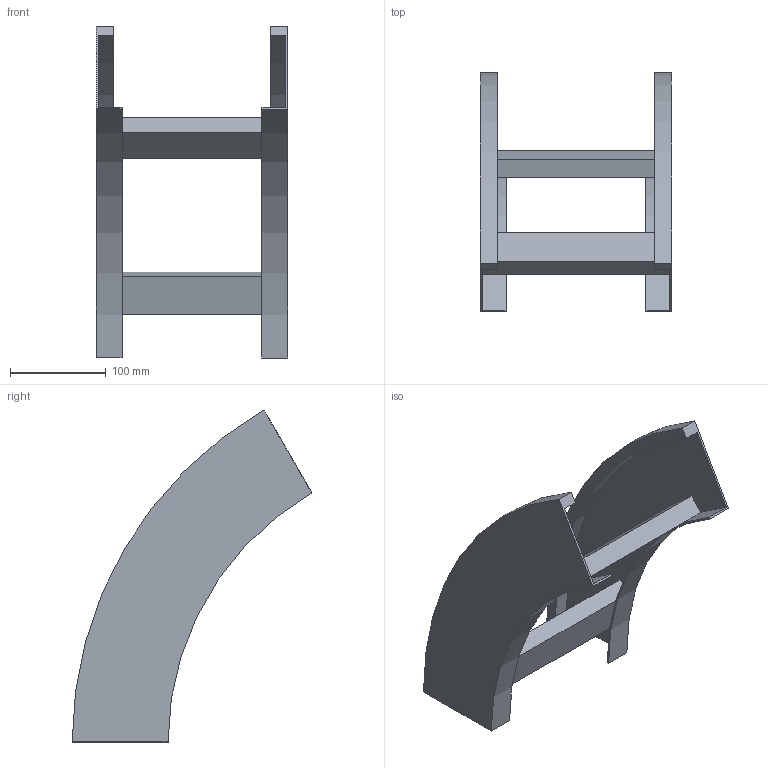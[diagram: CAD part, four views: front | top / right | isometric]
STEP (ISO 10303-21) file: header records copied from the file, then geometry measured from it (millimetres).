
FILE_DESCRIPTION (( 'STEP AP214' ), '1' );
FILE_NAME ('B2_41B3D200.step', '2025-02-21T14:57:04', ( '' ), ( '' ), 'SwSTEP 2.0', 'SolidWorks 2023', '' );
FILE_SCHEMA (( 'AUTOMOTIVE_DESIGN' ));
Length unit declared in the file: millimetre
Products named in the file (3): B2_41B3D200; TRAVERSINO_200; B2_LONGH.DISCESA_60°_H100_R300
Assembly tree (4 placements, depth 2):
  B2_41B3D200
    B2_LONGH.DISCESA_60°_H100_R300  x2
    TRAVERSINO_200  x2
Bounding box: 200 x 250 x 346.41 mm (x, y, z)
Volume: 654085.1 mm3; surface area: 259906.6 mm2
Topology: 4 solids, 4 shells, 32 faces, 72 edges, 48 vertices
Faces by surface type: plane 24, cylinder 8
Entity records: 552 total; most frequent: DIRECTION 90, CARTESIAN_POINT 83, ORIENTED_EDGE 72, EDGE_CURVE 36, AXIS2_PLACEMENT_3D 31, LINE 28, VECTOR 28, VERTEX_POINT 24
